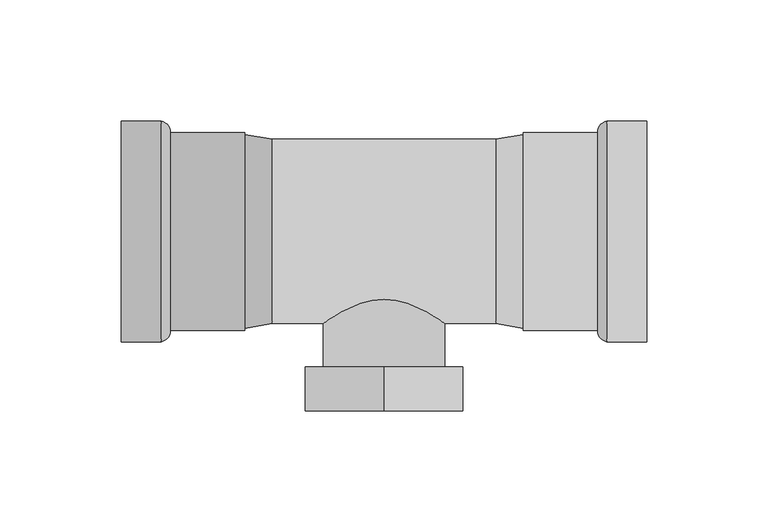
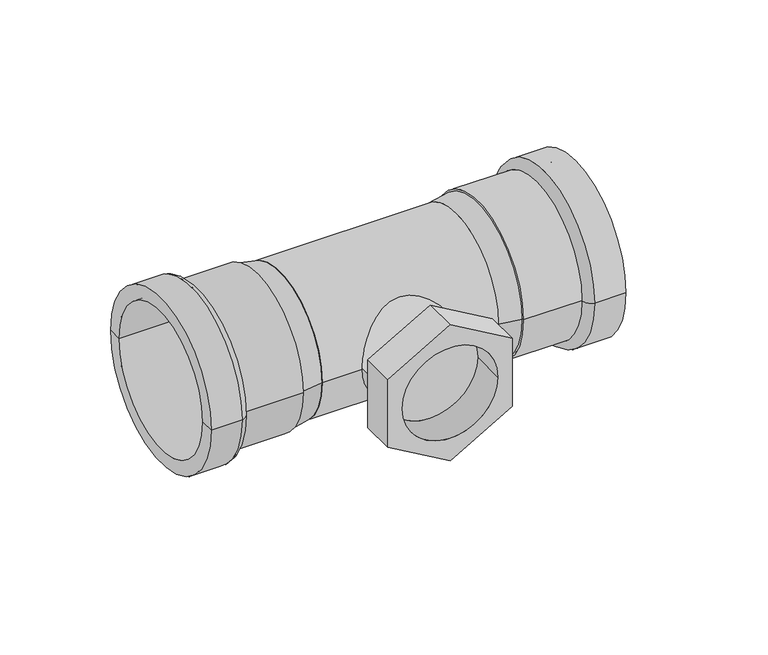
"""IFC4 building model written with IfcOpenShell, lengths in millimetres: pipe fitting geometry, VALTEC_VTi.932.I_Тройник с переходом на внутреннюю резьбу нержавеющая сталь : VTi.932.I."""

from ifc_helpers import new_model, si_unit, point, frame, origin, origin_2d, place, context, project, spatial, polyline, circle_curve, ellipse_curve, trimmed, segment, composite_curve, outline, extrude, source, transform, mapped, element, save
from ifc_brep_helpers import plane_surface, cylinder_surface, revolved_surface, advanced_brep


def pipe_fitting_f7dbe705(model_context):
    return source(origin(), model_context, "Body", "SolidModel", [
        advanced_brep(
        [(108.31, -38.05, 0.0), (108.31, -45.5, 0.0), (108.31, 45.5, 0.0), (108.31, 38.05, 0.0), (57.5, -38.05, 0.0), (57.5, 38.05, 0.0), (57.5, -40.75, 0.0), (57.5, 40.75, 0.0), (88.06, -40.75, 0.0), (88.06, 40.75, 0.0), (91.91, -45.5, 0.0), (91.91, 45.5, 0.0)],
        [
            (0, 1),
            (1, 2, circle_curve(frame((108.31, 0.0, 0.0), z_axis=(1.0, 0.0, 0.0), x_axis=(0.0, 1.0, 0.0)), 45.5)),
            (2, 3),
            (3, 0, circle_curve(frame((108.31, 0.0, 0.0), z_axis=(-1.0, 0.0, 0.0), x_axis=(0.0, 1.0, 0.0)), 38.05)),
            (2, 1, circle_curve(frame((108.31, 0.0, 0.0), z_axis=(1.0, 0.0, 0.0), x_axis=(0.0, 1.0, 0.0)), 45.5)),
            (0, 3, circle_curve(frame((108.31, 0.0, 0.0), z_axis=(-1.0, 0.0, 0.0), x_axis=(0.0, 1.0, 0.0)), 38.05)),
            (4, 0),
            (3, 5),
            (5, 4, circle_curve(frame((57.5, 0.0, 0.0), z_axis=(-1.0, 0.0, 0.0), x_axis=(0.0, 1.0, 0.0)), 38.05)),
            (4, 5, circle_curve(frame((57.5, 0.0, 0.0), z_axis=(-1.0, 0.0, 0.0), x_axis=(0.0, 1.0, 0.0)), 38.05)),
            (6, 4),
            (5, 7),
            (7, 6, circle_curve(frame((57.5, 0.0, 0.0), z_axis=(-1.0, 0.0, 0.0), x_axis=(0.0, 1.0, 0.0)), 40.75)),
            (6, 7, circle_curve(frame((57.5, 0.0, 0.0), z_axis=(-1.0, 0.0, 0.0), x_axis=(0.0, 1.0, 0.0)), 40.75)),
            (8, 6),
            (7, 9),
            (9, 8, circle_curve(frame((88.06, 0.0, 0.0), z_axis=(-1.0, 0.0, 0.0), x_axis=(0.0, 1.0, 0.0)), 40.75)),
            (8, 9, circle_curve(frame((88.06, 0.0, 0.0), z_axis=(-1.0, 0.0, 0.0), x_axis=(0.0, 1.0, 0.0)), 40.75)),
            (10, 8, circle_curve(frame((92.7765873, -40.862345, 0.0), z_axis=(0.0, 0.0, -1.0), x_axis=(-1.0, 0.0, 0.0)), 4.7179251)),
            (9, 11, circle_curve(frame((92.7765873, 40.862345, 0.0), z_axis=(0.0, 0.0, -1.0), x_axis=(-1.0, 0.0, 0.0)), 4.7179251)),
            (11, 10, circle_curve(frame((91.91, 0.0, 0.0), z_axis=(-1.0, 0.0, 0.0), x_axis=(0.0, 1.0, 0.0)), 45.5)),
            (10, 11, circle_curve(frame((91.91, 0.0, 0.0), z_axis=(-1.0, 0.0, 0.0), x_axis=(0.0, 1.0, 0.0)), 45.5)),
            (1, 10),
            (11, 2),
        ],
        [
            plane_surface(frame((108.31, 0.0, 0.0), z_axis=(1.0, 0.0, 0.0), x_axis=(0.0, 1.0, 0.0))),
            revolved_surface(polyline([(108.31, 38.05, 0.0), (57.5, 38.05, 0.0)]), (78.4606392, 0.0, 0.0), (1.0, 0.0, 0.0)),
            plane_surface(frame((57.5, 0.0, 0.0), z_axis=(-1.0, 0.0, 0.0), x_axis=(0.0, 1.0, 0.0))),
            cylinder_surface(frame((78.4606392, 0.0, 0.0), z_axis=(1.0, 0.0, 0.0), x_axis=(0.0, 1.0, 0.0)), 40.75),
            revolved_surface(trimmed(ellipse_curve(frame((92.7765873, 40.862345, 0.0), z_axis=(0.0, 0.0, -1.0), x_axis=(-1.0, 0.0, 0.0)), 4.7179251, 4.7179251), [point((88.06, 40.75, 0.0))], [point((91.91, 45.5, 0.0))], True, "CARTESIAN"), (78.4606392, 0.0, 0.0), (1.0, 0.0, 0.0)),
            cylinder_surface(frame((78.4606392, 0.0, 0.0), z_axis=(1.0, 0.0, 0.0), x_axis=(0.0, 1.0, 0.0)), 45.5),
        ],
        [
            (0, [[1, 2, 3, 4]]),
            (0, [[-3, 5, -1, 6]]),
            (1, [[7, -4, 8, 9]]),
            (1, [[-8, -6, -7, 10]]),
            (2, [[11, -9, 12, 13]]),
            (2, [[-12, -10, -11, 14]]),
            (3, [[15, -13, 16, 17]]),
            (3, [[-16, -14, -15, 18]]),
            (4, [[19, -17, 20, 21]]),
            (4, [[-20, -18, -19, 22]]),
            (5, [[23, -21, 24, -2]]),
            (5, [[-24, -22, -23, -5]]),
        ],
    ),
        advanced_brep(
        [(-108.31, -38.05, 0.0), (-108.31, 38.05, 0.0), (-108.31, 45.5, 0.0), (-108.31, -45.5, 0.0), (-57.5, -38.05, 0.0), (-57.5, 38.05, 0.0), (-57.5, -40.75, 0.0), (-57.5, 40.75, 0.0), (-88.06, -40.75, 0.0), (-88.06, 40.75, 0.0), (-91.91, -45.5, 0.0), (-91.91, 45.5, 0.0)],
        [
            (0, 1, circle_curve(frame((-108.31, 0.0, 0.0), z_axis=(1.0, 0.0, 0.0), x_axis=(0.0, 1.0, 0.0)), 38.05)),
            (1, 2),
            (2, 3, circle_curve(frame((-108.31, 0.0, 0.0), z_axis=(-1.0, 0.0, 0.0), x_axis=(0.0, 1.0, 0.0)), 45.5)),
            (3, 0),
            (1, 0, circle_curve(frame((-108.31, 0.0, 0.0), z_axis=(1.0, 0.0, 0.0), x_axis=(0.0, 1.0, 0.0)), 38.05)),
            (3, 2, circle_curve(frame((-108.31, 0.0, 0.0), z_axis=(-1.0, 0.0, 0.0), x_axis=(0.0, 1.0, 0.0)), 45.5)),
            (4, 5, circle_curve(frame((-57.5, 0.0, 0.0), z_axis=(1.0, 0.0, 0.0), x_axis=(0.0, 1.0, 0.0)), 38.05)),
            (5, 1),
            (0, 4),
            (5, 4, circle_curve(frame((-57.5, 0.0, 0.0), z_axis=(1.0, 0.0, 0.0), x_axis=(0.0, 1.0, 0.0)), 38.05)),
            (6, 7, circle_curve(frame((-57.5, 0.0, 0.0), z_axis=(1.0, 0.0, 0.0), x_axis=(0.0, 1.0, 0.0)), 40.75)),
            (7, 5),
            (4, 6),
            (7, 6, circle_curve(frame((-57.5, 0.0, 0.0), z_axis=(1.0, 0.0, 0.0), x_axis=(0.0, 1.0, 0.0)), 40.75)),
            (8, 9, circle_curve(frame((-88.06, 0.0, 0.0), z_axis=(1.0, 0.0, 0.0), x_axis=(0.0, 1.0, 0.0)), 40.75)),
            (9, 7),
            (6, 8),
            (9, 8, circle_curve(frame((-88.06, 0.0, 0.0), z_axis=(1.0, 0.0, 0.0), x_axis=(0.0, 1.0, 0.0)), 40.75)),
            (10, 11, circle_curve(frame((-91.91, 0.0, 0.0), z_axis=(1.0, 0.0, 0.0), x_axis=(0.0, 1.0, 0.0)), 45.5)),
            (11, 9, circle_curve(frame((-92.7765873, 40.862345, 0.0), z_axis=(0.0, 0.0, -1.0), x_axis=(1.0, 0.0, 0.0)), 4.7179251)),
            (8, 10, circle_curve(frame((-92.7765873, -40.862345, 0.0), z_axis=(0.0, 0.0, -1.0), x_axis=(1.0, 0.0, 0.0)), 4.7179251)),
            (11, 10, circle_curve(frame((-91.91, 0.0, 0.0), z_axis=(1.0, 0.0, 0.0), x_axis=(0.0, 1.0, 0.0)), 45.5)),
            (2, 11),
            (10, 3),
        ],
        [
            plane_surface(frame((-108.31, 0.0, 0.0), z_axis=(-1.0, 0.0, 0.0), x_axis=(0.0, 1.0, 0.0))),
            revolved_surface(polyline([(-108.31, 38.05, 0.0), (-57.5, 38.05, 0.0)]), (-78.4606392, 0.0, 0.0), (-1.0, 0.0, 0.0)),
            plane_surface(frame((-57.5, 0.0, 0.0), z_axis=(1.0, 0.0, 0.0), x_axis=(0.0, 1.0, 0.0))),
            cylinder_surface(frame((-78.4606392, 0.0, 0.0), z_axis=(-1.0, 0.0, 0.0), x_axis=(0.0, 1.0, 0.0)), 40.75),
            revolved_surface(trimmed(ellipse_curve(frame((-92.7765873, 40.862345, 0.0), z_axis=(0.0, 0.0, 1.0), x_axis=(1.0, 0.0, 0.0)), 4.7179251, 4.7179251), [point((-88.06, 40.75, 0.0))], [point((-91.91, 45.5, 0.0))], True, "CARTESIAN"), (-78.4606392, 0.0, 0.0), (-1.0, 0.0, 0.0)),
            cylinder_surface(frame((-78.4606392, 0.0, 0.0), z_axis=(-1.0, 0.0, 0.0), x_axis=(0.0, 1.0, 0.0)), 45.5),
        ],
        [
            (0, [[1, 2, 3, 4]]),
            (0, [[5, -4, 6, -2]]),
            (1, [[7, 8, -1, 9]]),
            (1, [[10, -9, -5, -8]]),
            (2, [[11, 12, -7, 13]]),
            (2, [[14, -13, -10, -12]]),
            (3, [[15, 16, -11, 17]]),
            (3, [[18, -17, -14, -16]]),
            (4, [[19, 20, -15, 21]]),
            (4, [[22, -21, -18, -20]]),
            (5, [[-3, 23, -19, 24]]),
            (5, [[-6, -24, -22, -23]]),
        ],
    ),
        extrude(outline(polyline([(37.5277675, 0.0), (18.7638837, -32.5), (-18.7638837, -32.5), (-37.5277675, 0.0), (-18.7638837, 32.5), (18.7638837, 32.5), (37.5277675, 0.0)]), holes=[composite_curve([segment(trimmed(circle_curve(origin_2d(), 25.0), [point((0.0, -25.0))], [point((0.0, 25.0))], True, "CARTESIAN"), True, "CONTINUOUS"), segment(trimmed(circle_curve(origin_2d(), 25.0), [point((0.0, 25.0))], [point((0.0, -25.0))], True, "CARTESIAN"), True, "CONTINUOUS")], self_intersect=False)]), frame((0.0, -74.0, 0.0), z_axis=(0.0, 1.0, 0.0), x_axis=(0.0, 0.0, 1.0)), (0.0, 0.0, 1.0), 18.0),
        extrude(outline(composite_curve([segment(trimmed(circle_curve(origin_2d(), 25.0), [point((0.0, -25.0))], [point((0.0, 25.0))], False, "CARTESIAN"), True, "CONTINUOUS"), segment(trimmed(circle_curve(origin_2d(), 25.0), [point((0.0, 25.0))], [point((0.0, -25.0))], False, "CARTESIAN"), True, "CONTINUOUS")], self_intersect=False)), frame((0.0, -56.0, 0.0), z_axis=(0.0, 1.0, 0.0), x_axis=(0.0, 0.0, 1.0)), (0.0, 0.0, 1.0), 56.0),
        extrude(outline(composite_curve([segment(trimmed(circle_curve(origin_2d(), 38.05), [point((-38.05, 0.0))], [point((38.05, 0.0))], False, "CARTESIAN"), True, "CONTINUOUS"), segment(trimmed(circle_curve(origin_2d(), 38.05), [point((38.05, 0.0))], [point((-38.05, 0.0))], False, "CARTESIAN"), True, "CONTINUOUS")], self_intersect=False)), frame((-46.0, 0.0, 0.0), z_axis=(1.0, 0.0, 0.0), x_axis=(0.0, 1.0, 0.0)), (0.0, 0.0, 1.0), 92.0),
        advanced_brep(
        [(57.5, -39.9525, 0.0), (57.5, 39.9525, 0.0), (46.0, -38.05, 0.0), (46.0, 38.05, 0.0)],
        [
            (0, 1, circle_curve(frame((57.5, 0.0, 0.0), z_axis=(1.0, 0.0, 0.0), x_axis=(0.0, -1.0, 0.0)), 39.9525)),
            (1, 0, circle_curve(frame((57.5, 0.0, 0.0), z_axis=(1.0, 0.0, 0.0), x_axis=(0.0, 1.0, 0.0)), 39.9525)),
            (2, 3, circle_curve(frame((46.0, 0.0, 0.0), z_axis=(-1.0, 0.0, 0.0), x_axis=(0.0, 1.0, 0.0)), 38.05)),
            (3, 2, circle_curve(frame((46.0, 0.0, 0.0), z_axis=(-1.0, 0.0, 0.0), x_axis=(0.0, -1.0, 0.0)), 38.05)),
            (3, 1),
            (0, 2),
        ],
        [
            plane_surface(frame((57.5, 0.0, 0.0), z_axis=(1.0, 0.0, 0.0), x_axis=(0.0, 0.0, 1.0))),
            plane_surface(frame((46.0, 0.0, 0.0), z_axis=(-1.0, 0.0, 0.0), x_axis=(0.0, 0.0, 1.0))),
            revolved_surface(polyline([(46.0, 38.05, 0.0), (57.5, 39.9525, 0.0)]), (-184.0, 0.0, 0.0), (1.0, 0.0, 0.0)),
            revolved_surface(polyline([(46.0, -38.05, 0.0), (57.5, -39.9525, 0.0)]), (-184.0, 0.0, 0.0), (1.0, 0.0, 0.0)),
        ],
        [
            (0, [[1, 2]]),
            (1, [[3, 4]]),
            (2, [[-4, 5, -1, 6]]),
            (3, [[-3, -6, -2, -5]]),
        ],
    ),
        advanced_brep(
        [(-57.5, -39.9525, 0.0), (-57.5, 39.9525, 0.0), (-46.0, -38.05, 0.0), (-46.0, 38.05, 0.0)],
        [
            (0, 1, circle_curve(frame((-57.5, 0.0, 0.0), z_axis=(-1.0, 0.0, 0.0), x_axis=(0.0, -1.0, 0.0)), 39.9525)),
            (1, 0, circle_curve(frame((-57.5, 0.0, 0.0), z_axis=(-1.0, 0.0, 0.0), x_axis=(0.0, 1.0, 0.0)), 39.9525)),
            (2, 3, circle_curve(frame((-46.0, 0.0, 0.0), z_axis=(1.0, 0.0, 0.0), x_axis=(0.0, 1.0, 0.0)), 38.05)),
            (3, 2, circle_curve(frame((-46.0, 0.0, 0.0), z_axis=(1.0, 0.0, 0.0), x_axis=(0.0, -1.0, 0.0)), 38.05)),
            (2, 0),
            (1, 3),
        ],
        [
            plane_surface(frame((-57.5, 0.0, 0.0), z_axis=(-1.0, 0.0, 0.0), x_axis=(0.0, 0.0, -1.0))),
            plane_surface(frame((-46.0, 0.0, 0.0), z_axis=(1.0, 0.0, 0.0), x_axis=(0.0, 0.0, -1.0))),
            revolved_surface(polyline([(-46.0, -38.05, 0.0), (-57.5, -39.9525, 0.0)]), (184.0, 0.0, 0.0), (-1.0, 0.0, 0.0)),
            revolved_surface(polyline([(-46.0, 38.05, 0.0), (-57.5, 39.9525, 0.0)]), (184.0, 0.0, 0.0), (-1.0, 0.0, 0.0)),
        ],
        [
            (0, [[1, 2]]),
            (1, [[3, 4]]),
            (2, [[-3, 5, -2, 6]]),
            (3, [[-4, -6, -1, -5]]),
        ],
    ),
    ])


if __name__ == "__main__":
    model = new_model("IFC4")
    model_context = context("Model", 3, world=origin())
    ifc_project = project(units=[si_unit("LENGTHUNIT", "METRE", prefix="MILLI")], contexts=[model_context])
    site = spatial("IfcSite", under=ifc_project)
    building = spatial("IfcBuilding", under=site)
    placement = place(None, origin())
    pipe_fitting_shape = pipe_fitting_f7dbe705(model_context)
    element("IfcPipeFitting", 1, ObjectType="VALTEC_VTi.932.I_Тройник с переходом на внутреннюю резьбу нержавеющая сталь : VTi.932.I", at=placement, inside=building, context=model_context, shape_type="MappedRepresentation", body=[
        mapped(pipe_fitting_shape, transform((0.0, 0.0, 0.0), x_axis=(1.0, 0.0, 0.0), y_axis=(0.0, 1.0, 0.0), z_axis=(0.0, 0.0, 1.0))),
    ])
    save(model, "model.ifc")
